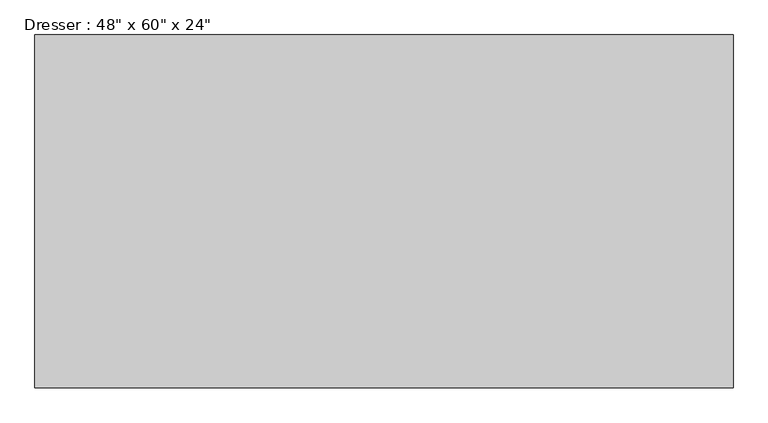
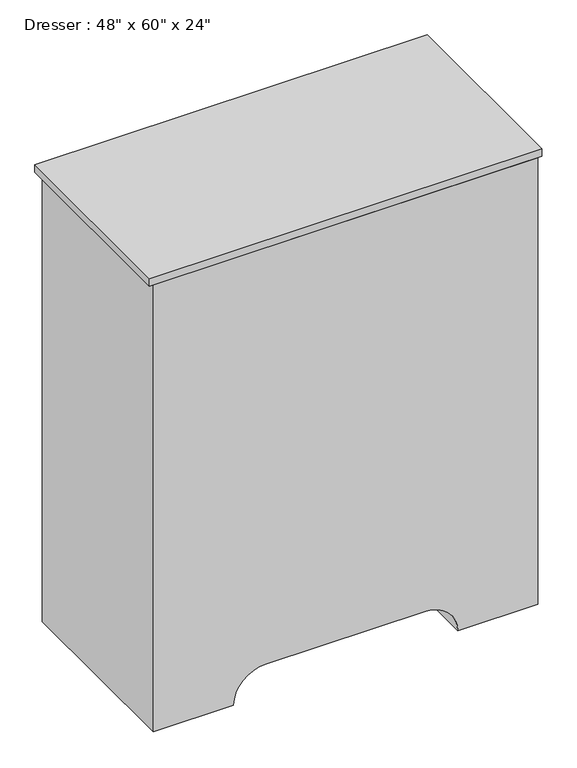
"""IFC4 building model written with IfcOpenShell, lengths in millimetres: furniture geometry."""

import ifcopenshell
import ifcopenshell.guid

model = None  # the IFC model being written
_history = None  # IfcOwnerHistory: only IFC2X3 demands one
_inside = {}  # id of a spatial element -> (the spatial element, [elements in it])
_under = {}  # id of a project, library or spatial element -> (it, [spatial elements below it])
_declared = {}  # id of a project -> (the project, [libraries it declares])
_typed = {}  # id of a type object -> (the type object, [elements of that type])
_made_of = {}  # id of a material, layer set ... -> (it, [elements and type objects made of it])


def new_model(schema):
    """Start an empty IFC model of exactly this schema.

    Asked for "IFC4X3", IfcOpenShell would pick the latest addendum, in which some entities
    have other attributes; the version numbers below select the first issue.
    IFC2X3 requires an IfcOwnerHistory on every rooted entity: one is made here for all.
    """
    global model, _history
    if schema == "IFC4X3":
        model = ifcopenshell.file(schema_version=(4, 3, 0, 0))
    else:
        model = ifcopenshell.file(schema=schema)
    _inside.clear()
    _under.clear()
    _declared.clear()
    _typed.clear()
    _made_of.clear()
    _history = None
    if model.schema == "IFC2X3":
        org = make("IfcOrganization", Name="unknown")
        user = make(
            "IfcPersonAndOrganization",
            ThePerson=make("IfcPerson", FamilyName="unknown"),
            TheOrganization=org,
        )
        app = make(
            "IfcApplication",
            ApplicationDeveloper=org,
            Version="unknown",
            ApplicationFullName="unknown",
            ApplicationIdentifier="unknown",
        )
        _history = make(
            "IfcOwnerHistory",
            OwningUser=user,
            OwningApplication=app,
            ChangeAction="ADDED",
            CreationDate=0,
        )
    return model


def make(cls, **values):
    """One entity of the class cls with the attributes given. An attribute that is None is left unset."""
    return model.create_entity(
        cls, **{name: value for name, value in values.items() if value is not None}
    )


def rooted(cls, **values):
    """An entity with a GlobalId (a new one), such as an element, a storey or a relation."""
    return make(cls, GlobalId=ifcopenshell.guid.new(), OwnerHistory=_history, **values)


def si_unit(unit_type, name, prefix=None):
    """IfcSIUnit, for example si_unit("LENGTHUNIT", "METRE", prefix="MILLI")."""
    return make("IfcSIUnit", UnitType=unit_type, Prefix=prefix, Name=name)


def assignment(units):
    """IfcUnitAssignment: the units of a project."""
    return None if units is None else make("IfcUnitAssignment", Units=units)


def point(xyz):
    """IfcCartesianPoint."""
    return None if xyz is None else make("IfcCartesianPoint", Coordinates=xyz)


def direction(xyz):
    """IfcDirection."""
    return None if xyz is None else make("IfcDirection", DirectionRatios=xyz)


def frame(location, z_axis=None, x_axis=None):
    """IfcAxis2Placement3D, a coordinate frame: its origin and axes. An axis left out is left unset."""
    return make(
        "IfcAxis2Placement3D",
        Location=point(location),
        Axis=direction(z_axis),
        RefDirection=direction(x_axis),
    )


def frame_2d(location, x_axis=None):
    """IfcAxis2Placement2D, a coordinate frame in the plane: its origin and x axis."""
    return make(
        "IfcAxis2Placement2D", Location=point(location), RefDirection=direction(x_axis)
    )


def origin():
    """The frame at (0, 0, 0) with its axes left unset."""
    return frame((0.0, 0.0, 0.0))


def place(relative_to, where):
    """IfcLocalPlacement: puts the frame where relative to a parent placement (None: the world)."""
    return make(
        "IfcLocalPlacement", PlacementRelTo=relative_to, RelativePlacement=where
    )


def context(
    kind, dimensions, precision=None, world=None, true_north=None, identifier=None
):
    """IfcGeometricRepresentationContext, for example the 3D "Model" context."""
    return make(
        "IfcGeometricRepresentationContext",
        ContextIdentifier=identifier,
        ContextType=kind,
        CoordinateSpaceDimension=dimensions,
        Precision=precision,
        WorldCoordinateSystem=world,
        TrueNorth=true_north,
    )


def project(units=None, contexts=None):
    """IfcProject with its units and contexts."""
    return rooted(
        "IfcProject",
        Name="project",
        RepresentationContexts=contexts,
        UnitsInContext=assignment(units),
    )


def spatial(cls, under=None, at=None, **own):
    """A site, building, storey or space (cls), placed at a placement, below another one or the project."""
    s = rooted(cls, ObjectPlacement=at, **own)
    if under is not None:
        _under.setdefault(under.id(), (under, []))[1].append(s)
    return s


def polyline(points):
    """IfcPolyline through the points."""
    return make("IfcPolyline", Points=[point(p) for p in points])


def circle_curve(where, radius):
    """IfcCircle in the frame where."""
    return make("IfcCircle", Position=where, Radius=radius)


def trimmed(basis, trim1, trim2, sense, master):
    """IfcTrimmedCurve: the piece of a basis curve between two trims."""
    return make(
        "IfcTrimmedCurve",
        BasisCurve=basis,
        Trim1=trim1,
        Trim2=trim2,
        SenseAgreement=sense,
        MasterRepresentation=master,
    )


def segment(curve, same_sense, transition):
    """IfcCompositeCurveSegment."""
    return make(
        "IfcCompositeCurveSegment",
        Transition=transition,
        SameSense=same_sense,
        ParentCurve=curve,
    )


def composite_curve(segments, self_intersect=None):
    """IfcCompositeCurve: segments joined end to end."""
    return make("IfcCompositeCurve", Segments=segments, SelfIntersect=self_intersect)


def outline(outer, holes=None, kind="AREA"):
    """IfcArbitraryClosedProfileDef: a profile drawn as a closed curve; with holes, ...WithVoids."""
    if holes is None:
        return make("IfcArbitraryClosedProfileDef", ProfileType=kind, OuterCurve=outer)
    return make(
        "IfcArbitraryProfileDefWithVoids",
        ProfileType=kind,
        OuterCurve=outer,
        InnerCurves=holes,
    )


def extrude(swept, where, along, depth):
    """IfcExtrudedAreaSolid: the profile swept, set in the frame where, extruded along a direction by depth."""
    return make(
        "IfcExtrudedAreaSolid",
        SweptArea=swept,
        Position=where,
        ExtrudedDirection=direction(along),
        Depth=depth,
    )


def shape(context_of_items, identifier, shape_type, items):
    """IfcShapeRepresentation: the items that make up one representation, for example the "Body"."""
    return make(
        "IfcShapeRepresentation",
        ContextOfItems=context_of_items,
        RepresentationIdentifier=identifier,
        RepresentationType=shape_type,
        Items=items,
    )


def source(mapping_origin, context_of_items, identifier, shape_type, items):
    """IfcRepresentationMap: a shape defined once, which mapped items show again and again."""
    return make(
        "IfcRepresentationMap",
        MappingOrigin=mapping_origin,
        MappedRepresentation=shape(context_of_items, identifier, shape_type, items),
    )


def transform(
    local_origin,
    x_axis=None,
    y_axis=None,
    z_axis=None,
    scale=None,
    scale2=None,
    scale3=None,
    uniform=True,
):
    """IfcCartesianTransformationOperator3D, or its non-uniform kind. x_axis, y_axis, z_axis: its Axis1, 2, 3."""
    if uniform:
        return make(
            "IfcCartesianTransformationOperator3D",
            Axis1=direction(x_axis),
            Axis2=direction(y_axis),
            LocalOrigin=point(local_origin),
            Scale=scale,
            Axis3=direction(z_axis),
        )
    return make(
        "IfcCartesianTransformationOperator3DnonUniform",
        Axis1=direction(x_axis),
        Axis2=direction(y_axis),
        LocalOrigin=point(local_origin),
        Scale=scale,
        Axis3=direction(z_axis),
        Scale2=scale2,
        Scale3=scale3,
    )


def mapped(mapping_source, mapping_target):
    """IfcMappedItem: shows the shape of a source again, moved by a transform."""
    return make(
        "IfcMappedItem", MappingSource=mapping_source, MappingTarget=mapping_target
    )


def made_of(thing, what):
    """Note that an element or type object is made of a material, layer set ...; save() writes the relation."""
    if what is not None:
        _made_of.setdefault(what.id(), (what, []))[1].append(thing)
    return thing


def element(
    cls,
    number,
    at=None,
    inside=None,
    cuts=None,
    type_object=None,
    material=None,
    context=None,
    identifier="Body",
    shape_type=None,
    held_by="IfcProductDefinitionShape",
    body=None,
    shapes=None,
    **own,
):
    """One element of the class cls, such as IfcWall. Its Tag is "e" and its number.

    at: its placement. inside: the storey or other place that contains it. cuts: it is an
    opening in that element (IfcRelVoidsElement). A single representation is given by context,
    identifier, shape_type and body (its items); several are given by shapes. held_by: the class
    of the entity that holds the representations. save() writes the other relations.
    """
    e = rooted(cls, Tag="e%d" % number, ObjectPlacement=at, **own)
    if body is not None:
        shapes = [shape(context, identifier, shape_type, body)]
    if shapes is not None:
        e.Representation = make(held_by, Representations=shapes)
    if inside is not None:
        _inside.setdefault(inside.id(), (inside, []))[1].append(e)
    if cuts is not None:
        rooted(
            "IfcRelVoidsElement", RelatingBuildingElement=cuts, RelatedOpeningElement=e
        )
    if type_object is not None:
        _typed.setdefault(type_object.id(), (type_object, []))[1].append(e)
    return made_of(e, material)


def aggregate(whole, parts):
    """IfcRelAggregates: a whole, such as a stair, and the parts it consists of."""
    return rooted("IfcRelAggregates", RelatingObject=whole, RelatedObjects=parts)


def save(model, path):
    """Write the relations noted so far, then the file.

    IfcRelAggregates (storeys below a building ...), IfcRelContainedInSpatialStructure (elements
    in a storey), IfcRelDefinesByType, IfcRelAssociatesMaterial and IfcRelDeclares: one each for
    every whole, place, type object, material and project.
    """
    for whole, parts in _under.values():
        aggregate(whole, parts)
    for where, things in _inside.values():
        rooted(
            "IfcRelContainedInSpatialStructure",
            RelatedElements=things,
            RelatingStructure=where,
        )
    for kind, things in _typed.values():
        rooted("IfcRelDefinesByType", RelatedObjects=things, RelatingType=kind)
    for what, things in _made_of.values():
        rooted("IfcRelAssociatesMaterial", RelatedObjects=things, RelatingMaterial=what)
    for by, libraries in _declared.values():
        rooted("IfcRelDeclares", RelatingContext=by, RelatedDefinitions=libraries)
    model.write(path)


def furniture_6130974d(model_context):
    return source(origin(), model_context, "Body", "SweptSolid", [
        extrude(outline(polyline([(353.1067402, 58.3629541), (-891.4932598, 58.3629541), (-891.4932598, 687.0129541), (353.1067402, 687.0129541), (353.1067402, 58.3629541)])), frame((0.0, 0.0, 1498.6), z_axis=(0.0, 0.0, 1.0), x_axis=(1.0, 0.0, 0.0)), (0.0, 0.0, 1.0), 25.4),
        extrude(outline(composite_curve([segment(polyline([(0.0, 340.4067402), (1498.6, 340.4067402), (1498.6, -878.7932598), (0.0, -878.7932598), (0.0, -624.7932598)]), True, "CONTINUOUS"), segment(trimmed(circle_curve(frame_2d((0.0, -523.1932598)), 101.6), [point((0.0, -624.7932598))], [point((101.6, -523.1932598))], True, "CARTESIAN"), True, "CONTINUOUS"), segment(polyline([(101.6, -523.1932598), (101.6, -15.1932598)]), True, "CONTINUOUS"), segment(trimmed(circle_curve(frame_2d((0.0, -15.1932598)), 101.6), [point((101.6, -15.1932598))], [point((0.0, 86.4067402))], True, "CARTESIAN"), True, "CONTINUOUS"), segment(polyline([(0.0, 86.4067402), (0.0, 340.4067402)]), True, "CONTINUOUS")], self_intersect=False)), frame((0.0, 58.3629541, 0.0), z_axis=(0.0, 1.0, 0.0), x_axis=(0.0, 0.0, 1.0)), (0.0, 0.0, 1.0), 609.6),
        extrude(outline(composite_curve([segment(trimmed(circle_curve(frame_2d((1295.4, 10.2067402)), 25.4), [point((1295.4, -15.1932598))], [point((1295.4, 35.6067402))], False, "CARTESIAN"), True, "CONTINUOUS"), segment(trimmed(circle_curve(frame_2d((1295.4, 10.2067402)), 25.4), [point((1295.4, 35.6067402))], [point((1295.4, -15.1932598))], False, "CARTESIAN"), True, "CONTINUOUS")], self_intersect=False)), frame((0.0, 674.3129541, 0.0), z_axis=(0.0, 1.0, 0.0), x_axis=(0.0, 0.0, 1.0)), (0.0, 0.0, 1.0), 12.7),
        extrude(outline(composite_curve([segment(trimmed(circle_curve(frame_2d((990.6, 10.2067402)), 25.4), [point((990.6, -15.1932598))], [point((990.6, 35.6067402))], False, "CARTESIAN"), True, "CONTINUOUS"), segment(trimmed(circle_curve(frame_2d((990.6, 10.2067402)), 25.4), [point((990.6, 35.6067402))], [point((990.6, -15.1932598))], False, "CARTESIAN"), True, "CONTINUOUS")], self_intersect=False)), frame((0.0, 674.3129541, 0.0), z_axis=(0.0, 1.0, 0.0), x_axis=(0.0, 0.0, 1.0)), (0.0, 0.0, 1.0), 12.7),
        extrude(outline(composite_curve([segment(trimmed(circle_curve(frame_2d((685.8, 10.2067402)), 25.4), [point((685.8, -15.1932598))], [point((685.8, 35.6067402))], False, "CARTESIAN"), True, "CONTINUOUS"), segment(trimmed(circle_curve(frame_2d((685.8, 10.2067402)), 25.4), [point((685.8, 35.6067402))], [point((685.8, -15.1932598))], False, "CARTESIAN"), True, "CONTINUOUS")], self_intersect=False)), frame((0.0, 674.3129541, 0.0), z_axis=(0.0, 1.0, 0.0), x_axis=(0.0, 0.0, 1.0)), (0.0, 0.0, 1.0), 12.7),
        extrude(outline(composite_curve([segment(trimmed(circle_curve(frame_2d((381.0, 10.2067402)), 25.4), [point((381.0, -15.1932598))], [point((381.0, 35.6067402))], False, "CARTESIAN"), True, "CONTINUOUS"), segment(trimmed(circle_curve(frame_2d((381.0, 10.2067402)), 25.4), [point((381.0, 35.6067402))], [point((381.0, -15.1932598))], False, "CARTESIAN"), True, "CONTINUOUS")], self_intersect=False)), frame((0.0, 674.3129541, 0.0), z_axis=(0.0, 1.0, 0.0), x_axis=(0.0, 0.0, 1.0)), (0.0, 0.0, 1.0), 12.7),
        extrude(outline(composite_curve([segment(trimmed(circle_curve(frame_2d((381.0, -548.5932598)), 25.4), [point((381.0, -573.9932598))], [point((381.0, -523.1932598))], False, "CARTESIAN"), True, "CONTINUOUS"), segment(trimmed(circle_curve(frame_2d((381.0, -548.5932598)), 25.4), [point((381.0, -523.1932598))], [point((381.0, -573.9932598))], False, "CARTESIAN"), True, "CONTINUOUS")], self_intersect=False)), frame((0.0, 674.3129541, 0.0), z_axis=(0.0, 1.0, 0.0), x_axis=(0.0, 0.0, 1.0)), (0.0, 0.0, 1.0), 12.7),
        extrude(outline(composite_curve([segment(trimmed(circle_curve(frame_2d((685.8, -548.5932598)), 25.4), [point((685.8, -573.9932598))], [point((685.8, -523.1932598))], False, "CARTESIAN"), True, "CONTINUOUS"), segment(trimmed(circle_curve(frame_2d((685.8, -548.5932598)), 25.4), [point((685.8, -523.1932598))], [point((685.8, -573.9932598))], False, "CARTESIAN"), True, "CONTINUOUS")], self_intersect=False)), frame((0.0, 674.3129541, 0.0), z_axis=(0.0, 1.0, 0.0), x_axis=(0.0, 0.0, 1.0)), (0.0, 0.0, 1.0), 12.7),
        extrude(outline(composite_curve([segment(trimmed(circle_curve(frame_2d((990.6, -548.5932598)), 25.4), [point((990.6, -573.9932598))], [point((990.6, -523.1932598))], False, "CARTESIAN"), True, "CONTINUOUS"), segment(trimmed(circle_curve(frame_2d((990.6, -548.5932598)), 25.4), [point((990.6, -523.1932598))], [point((990.6, -573.9932598))], False, "CARTESIAN"), True, "CONTINUOUS")], self_intersect=False)), frame((0.0, 674.3129541, 0.0), z_axis=(0.0, 1.0, 0.0), x_axis=(0.0, 0.0, 1.0)), (0.0, 0.0, 1.0), 12.7),
        extrude(outline(composite_curve([segment(trimmed(circle_curve(frame_2d((1295.4, -548.5932598)), 25.4), [point((1295.4, -573.9932598))], [point((1295.4, -523.1932598))], False, "CARTESIAN"), True, "CONTINUOUS"), segment(trimmed(circle_curve(frame_2d((1295.4, -548.5932598)), 25.4), [point((1295.4, -523.1932598))], [point((1295.4, -573.9932598))], False, "CARTESIAN"), True, "CONTINUOUS")], self_intersect=False)), frame((0.0, 674.3129541, 0.0), z_axis=(0.0, 1.0, 0.0), x_axis=(0.0, 0.0, 1.0)), (0.0, 0.0, 1.0), 12.7),
        extrude(outline(polyline([(289.6067402, 674.3129541), (289.6067402, 667.9629541), (-827.9932598, 667.9629541), (-827.9932598, 674.3129541), (289.6067402, 674.3129541)])), frame((0.0, 0.0, 1155.7), z_axis=(0.0, 0.0, 1.0), x_axis=(1.0, 0.0, 0.0)), (0.0, 0.0, 1.0), 279.4),
        extrude(outline(polyline([(289.6067402, 674.3129541), (289.6067402, 667.9629541), (-827.9932598, 667.9629541), (-827.9932598, 674.3129541), (289.6067402, 674.3129541)])), frame((0.0, 0.0, 850.9), z_axis=(0.0, 0.0, 1.0), x_axis=(1.0, 0.0, 0.0)), (0.0, 0.0, 1.0), 279.4),
        extrude(outline(polyline([(289.6067402, 674.3129541), (289.6067402, 667.9629541), (-827.9932598, 667.9629541), (-827.9932598, 674.3129541), (289.6067402, 674.3129541)])), frame((0.0, 0.0, 546.1), z_axis=(0.0, 0.0, 1.0), x_axis=(1.0, 0.0, 0.0)), (0.0, 0.0, 1.0), 279.4),
        extrude(outline(polyline([(289.6067402, 674.3129541), (289.6067402, 667.9629541), (-827.9932598, 667.9629541), (-827.9932598, 674.3129541), (289.6067402, 674.3129541)])), frame((0.0, 0.0, 241.3), z_axis=(0.0, 0.0, 1.0), x_axis=(1.0, 0.0, 0.0)), (0.0, 0.0, 1.0), 279.4),
    ])


if __name__ == "__main__":
    model = new_model("IFC4")
    model_context = context("Model", 3, world=origin())
    ifc_project = project(units=[si_unit("LENGTHUNIT", "METRE", prefix="MILLI")], contexts=[model_context])
    site = spatial("IfcSite", under=ifc_project)
    building = spatial("IfcBuilding", under=site)
    placement = place(None, origin())
    furniture_shape = furniture_6130974d(model_context)
    element("IfcFurniture", 1, ObjectType="Dresser : 48\" x 60\" x 24\"", at=placement, inside=building, context=model_context, shape_type="MappedRepresentation", body=[
        mapped(furniture_shape, transform((0.0, 0.0, 0.0), x_axis=(1.0, 0.0, 0.0), y_axis=(0.0, 1.0, 0.0), z_axis=(0.0, 0.0, 1.0))),
    ])
    save(model, "model.ifc")
